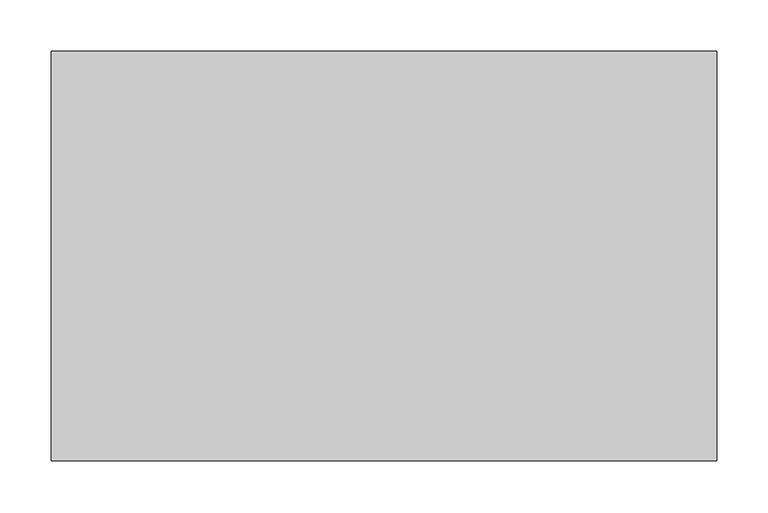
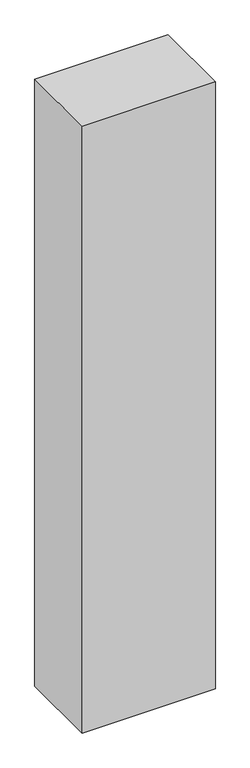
"""IFC4 building model written with IfcOpenShell, lengths in millimetres: proxy geometry."""

from ifc_helpers import new_model, si_unit, origin, origin_with_axes, place, context, project, spatial, polyline, outline, extrude, source, transform, mapped, element, save


def generic_models_b2d4d15c(model_context):
    return source(origin(), model_context, "Body", "SweptSolid", [
        extrude(outline(polyline([(-68034.998776, -8100.4850099), (-68034.998776, -7700.4850099), (-67384.998776, -7700.4850099), (-67384.998776, -8100.4850099), (-68034.998776, -8100.4850099)])), origin_with_axes(), (0.0, 0.0, 1.0), 3130.0),
    ])


if __name__ == "__main__":
    model = new_model("IFC4")
    model_context = context("Model", 3, world=origin())
    ifc_project = project(units=[si_unit("LENGTHUNIT", "METRE", prefix="MILLI")], contexts=[model_context])
    site = spatial("IfcSite", under=ifc_project)
    building = spatial("IfcBuilding", under=site)
    placement = place(None, origin())
    generic_models_shape = generic_models_b2d4d15c(model_context)
    element("IfcBuildingElementProxy", 1, Name="Generic Models", at=placement, inside=building, context=model_context, shape_type="MappedRepresentation", body=[
        mapped(generic_models_shape, transform((0.0, 0.0, 0.0), x_axis=(1.0, 0.0, 0.0), y_axis=(0.0, 1.0, 0.0), z_axis=(0.0, 0.0, 1.0))),
    ])
    save(model, "model.ifc")
